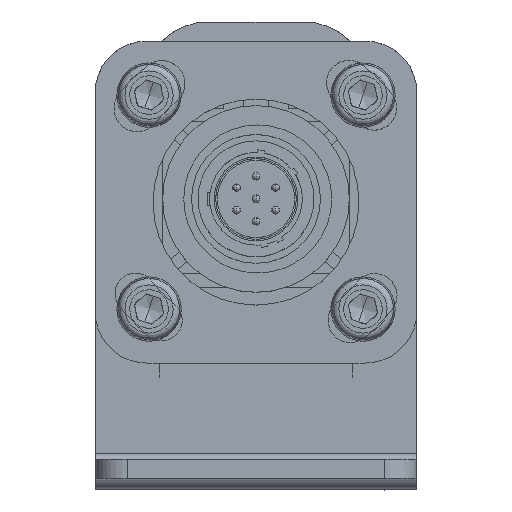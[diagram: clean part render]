
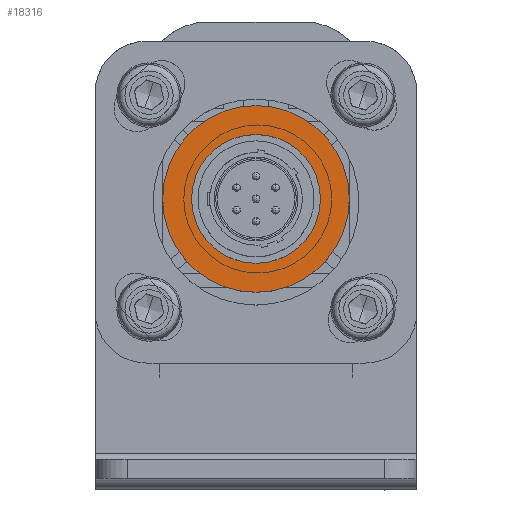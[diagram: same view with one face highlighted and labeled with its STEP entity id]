
A CAD part, top view. The second image highlights one B-rep face of the part: STEP entity #18316.
In plain terms, the highlighted planar face has unit normal (0, 0, 1) as drawn and (0, 0, -1) by its records, which use the part's own axes.
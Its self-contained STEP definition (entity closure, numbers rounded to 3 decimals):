
#263 = CARTESIAN_POINT ( 'NONE',  ( 1558.409, 1023.264, -8. ) ) ;
#1279 = VERTEX_POINT ( 'NONE', #5449 ) ;
#2233 = AXIS2_PLACEMENT_3D ( 'NONE', #23670, #17687, #11824 ) ;
#2316 = CARTESIAN_POINT ( 'NONE',  ( 1558.409, 1023.264, -8. ) ) ;
#3263 = EDGE_LOOP ( 'NONE', ( #22444, #17820 ) ) ;
#3499 = FACE_OUTER_BOUND ( 'NONE', #22575, .T. ) ;
#5449 = CARTESIAN_POINT ( 'NONE',  ( 1568.409, 1023.264, -8. ) ) ;
#5672 = CARTESIAN_POINT ( 'NONE',  ( 1558.409, 1023.264, -8. ) ) ;
#6555 = DIRECTION ( 'NONE',  ( -1., 0., 0. ) ) ;
#7989 = ORIENTED_EDGE ( 'NONE', *, *, #23614, .T. ) ;
#8084 = EDGE_CURVE ( 'NONE', #1279, #16499, #12569, .T. ) ;
#8364 = DIRECTION ( 'NONE',  ( 0., 0., -1. ) ) ;
#9484 = EDGE_CURVE ( 'NONE', #24621, #19263, #21430, .T. ) ;
#9644 = AXIS2_PLACEMENT_3D ( 'NONE', #263, #8364, #26170 ) ;
#10163 = CARTESIAN_POINT ( 'NONE',  ( 1548.409, 1023.264, -8. ) ) ;
#10269 = CARTESIAN_POINT ( 'NONE',  ( 1543.909, 1023.264, -8. ) ) ;
#11602 = PLANE ( 'NONE',  #15550 ) ;
#11824 = DIRECTION ( 'NONE',  ( -1., 0., 0. ) ) ;
#12291 = DIRECTION ( 'NONE',  ( 0., 0., -1. ) ) ;
#12569 = CIRCLE ( 'NONE', #9644, 10. ) ;
#12794 = DIRECTION ( 'NONE',  ( 0., 0., -1. ) ) ;
#13323 = CARTESIAN_POINT ( 'NONE',  ( 1572.909, 1023.264, -8. ) ) ;
#14418 = EDGE_CURVE ( 'NONE', #16499, #1279, #23257, .T. ) ;
#14557 = DIRECTION ( 'NONE',  ( -1., 0., 0. ) ) ;
#15550 = AXIS2_PLACEMENT_3D ( 'NONE', #2316, #12794, #6555 ) ;
#16249 = FACE_BOUND ( 'NONE', #3263, .T. ) ;
#16499 = VERTEX_POINT ( 'NONE', #10163 ) ;
#17647 = DIRECTION ( 'NONE',  ( 0., 0., -1. ) ) ;
#17687 = DIRECTION ( 'NONE',  ( 0., 0., -1. ) ) ;
#17820 = ORIENTED_EDGE ( 'NONE', *, *, #8084, .F. ) ;
#18178 = AXIS2_PLACEMENT_3D ( 'NONE', #18413, #12291, #14557 ) ;
#18316 = ADVANCED_FACE ( 'NONE', ( #16249, #3499 ), #11602, .T. ) ;
#18413 = CARTESIAN_POINT ( 'NONE',  ( 1558.409, 1023.264, -8. ) ) ;
#19263 = VERTEX_POINT ( 'NONE', #13323 ) ;
#21010 = AXIS2_PLACEMENT_3D ( 'NONE', #5672, #17647, #21875 ) ;
#21430 = CIRCLE ( 'NONE', #21010, 14.5 ) ;
#21875 = DIRECTION ( 'NONE',  ( -1., 0., 0. ) ) ;
#22141 = CIRCLE ( 'NONE', #2233, 14.5 ) ;
#22444 = ORIENTED_EDGE ( 'NONE', *, *, #14418, .F. ) ;
#22489 = ORIENTED_EDGE ( 'NONE', *, *, #9484, .T. ) ;
#22575 = EDGE_LOOP ( 'NONE', ( #7989, #22489 ) ) ;
#23257 = CIRCLE ( 'NONE', #18178, 10. ) ;
#23614 = EDGE_CURVE ( 'NONE', #19263, #24621, #22141, .T. ) ;
#23670 = CARTESIAN_POINT ( 'NONE',  ( 1558.409, 1023.264, -8. ) ) ;
#24621 = VERTEX_POINT ( 'NONE', #10269 ) ;
#26170 = DIRECTION ( 'NONE',  ( -1., 0., 0. ) ) ;
